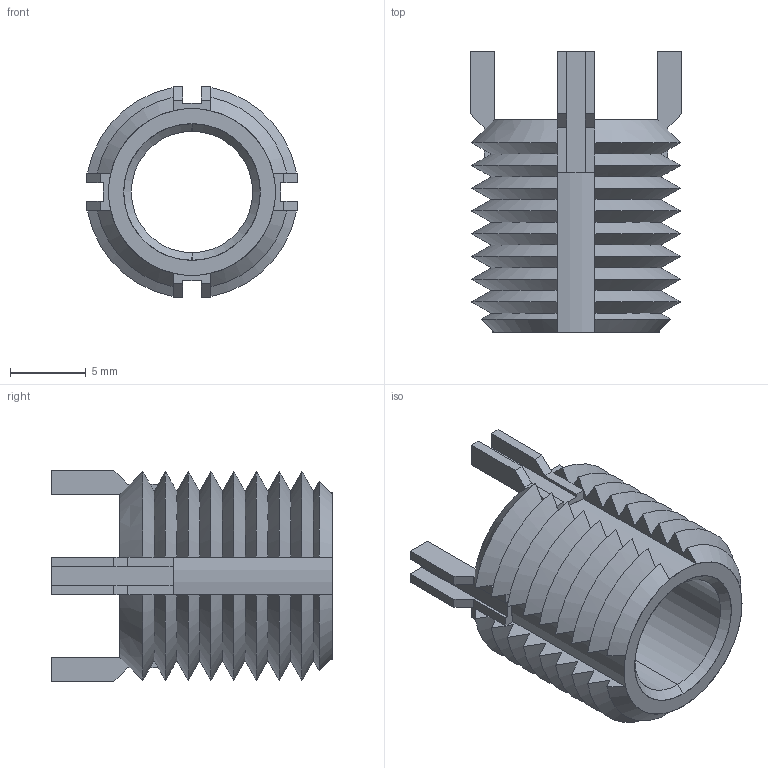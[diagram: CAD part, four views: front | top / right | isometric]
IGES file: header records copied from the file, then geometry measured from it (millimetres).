
Start section: SolidWorks IGES file using analytic representation for surfaces
Global section: file name: C:\Users\IanO\Desktop\PDF data sheets and models from M drive\TR1525_v2_20230326_IGES\TR1525.66166.igs; native system: SolidWorks 2019; preprocessor: SolidWorks 2019; author: IanO; date: 230326.185038; units: millimetre
Bounding box: 13.91 x 18.5 x 13.91 mm (x, y, z)
Surface area: 1645.1 mm2 (no closed solid volume)
Topology: 0 solids, 0 shells, 180 faces, 1072 edges, 1072 vertices
Faces by surface type: bspline 98, revolution 82
